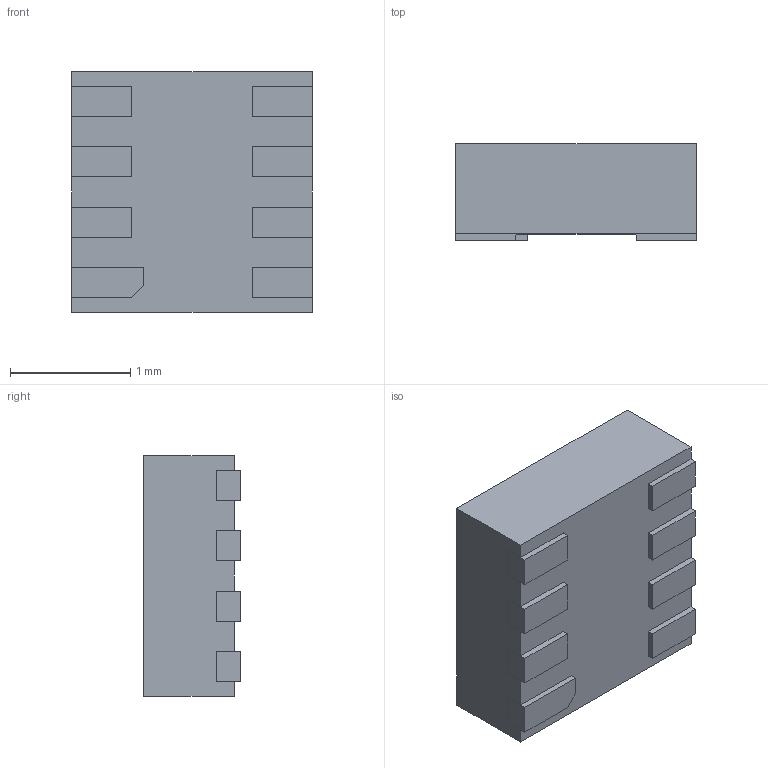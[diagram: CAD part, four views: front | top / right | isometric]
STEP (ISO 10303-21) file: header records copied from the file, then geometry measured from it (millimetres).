
FILE_DESCRIPTION (( 'STEP AP214' ), '1' );
FILE_NAME ('DQF8.STEP', '2024-03-20T07:59:31', ( '' ), ( '' ), 'SwSTEP 2.0', 'SolidWorks 2021', '' );
FILE_SCHEMA (( 'AUTOMOTIVE_DESIGN' ));
Length unit declared in the file: millimetre
Products named in the file (1): DQF8
Bounding box: 2 x 0.8 x 2 mm (x, y, z)
Volume: 3.1 mm3; surface area: 19.9 mm2
Topology: 10 solids, 10 shells, 95 faces, 222 edges, 148 vertices
Faces by surface type: plane 91, cylinder 4
Entity records: 2779 total; most frequent: CARTESIAN_POINT 466, ORIENTED_EDGE 444, DIRECTION 422, EDGE_CURVE 222, LINE 214, VECTOR 214, VERTEX_POINT 148, AXIS2_PLACEMENT_3D 104
